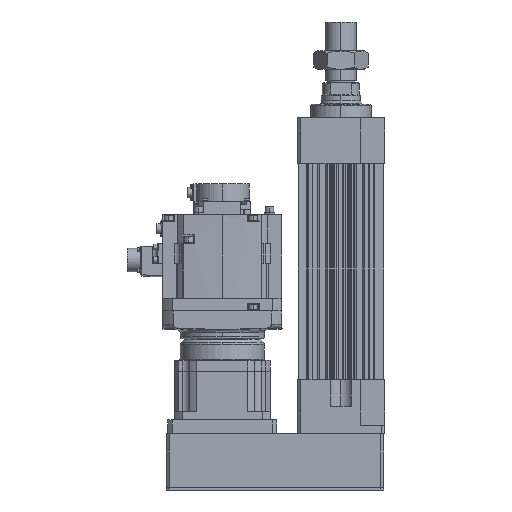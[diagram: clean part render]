
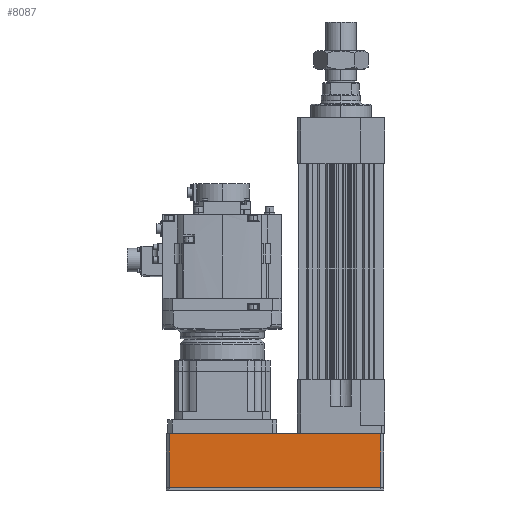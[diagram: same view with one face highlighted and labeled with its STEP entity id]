
A CAD part, left-side view. The second image highlights one B-rep face of the part: STEP entity #8087.
In plain terms, the highlighted planar face has unit normal (-1, 0, 0).
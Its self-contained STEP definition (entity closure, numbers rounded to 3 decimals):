
#4303 = DIRECTION ( 'NONE',  ( 0., -1., 0. ) ) ;
#6866 = EDGE_CURVE ( 'NONE', #21077, #49106, #23429, .T. ) ;
#6948 = PLANE ( 'NONE',  #25066 ) ;
#8087 = ADVANCED_FACE ( 'NONE', ( #43903 ), #6948, .F. ) ;
#11198 = DIRECTION ( 'NONE',  ( 1., 0., 0. ) ) ;
#11955 = EDGE_CURVE ( 'NONE', #49106, #29496, #26333, .T. ) ;
#12803 = CARTESIAN_POINT ( 'NONE',  ( -63.5, 63.5, 0.5 ) ) ;
#13216 = DIRECTION ( 'NONE',  ( 0., 0., 1. ) ) ;
#17422 = CARTESIAN_POINT ( 'NONE',  ( -63.5, 59., 0.5 ) ) ;
#19586 = EDGE_LOOP ( 'NONE', ( #37611, #24304, #23653, #51158 ) ) ;
#20137 = VECTOR ( 'NONE', #13216, 1000. ) ;
#21077 = VERTEX_POINT ( 'NONE', #29760 ) ;
#21704 = EDGE_CURVE ( 'NONE', #29496, #39172, #55018, .T. ) ;
#23429 = LINE ( 'NONE', #38666, #20137 ) ;
#23466 = CARTESIAN_POINT ( 'NONE',  ( -63.5, 63.5, 81. ) ) ;
#23653 = ORIENTED_EDGE ( 'NONE', *, *, #6866, .T. ) ;
#24304 = ORIENTED_EDGE ( 'NONE', *, *, #26019, .T. ) ;
#24655 = CARTESIAN_POINT ( 'NONE',  ( -63.5, 59., 80.5 ) ) ;
#25066 = AXIS2_PLACEMENT_3D ( 'NONE', #23466, #11198, #28088 ) ;
#26019 = EDGE_CURVE ( 'NONE', #39172, #21077, #45071, .T. ) ;
#26333 = LINE ( 'NONE', #24655, #54922 ) ;
#28088 = DIRECTION ( 'NONE',  ( 0., 1., 0. ) ) ;
#29496 = VERTEX_POINT ( 'NONE', #32977 ) ;
#29760 = CARTESIAN_POINT ( 'NONE',  ( -63.5, -254.5, 0.5 ) ) ;
#31549 = DIRECTION ( 'NONE',  ( 0., 0., -1. ) ) ;
#32977 = CARTESIAN_POINT ( 'NONE',  ( -63.5, 59., 80.5 ) ) ;
#33514 = CARTESIAN_POINT ( 'NONE',  ( -63.5, -254.5, 80.5 ) ) ;
#37100 = VECTOR ( 'NONE', #31549, 1000. ) ;
#37611 = ORIENTED_EDGE ( 'NONE', *, *, #21704, .T. ) ;
#38666 = CARTESIAN_POINT ( 'NONE',  ( -63.5, -254.5, 81. ) ) ;
#39172 = VERTEX_POINT ( 'NONE', #17422 ) ;
#43744 = VECTOR ( 'NONE', #4303, 1000. ) ;
#43903 = FACE_OUTER_BOUND ( 'NONE', #19586, .T. ) ;
#45071 = LINE ( 'NONE', #12803, #43744 ) ;
#45270 = DIRECTION ( 'NONE',  ( 0., 1., 0. ) ) ;
#48638 = CARTESIAN_POINT ( 'NONE',  ( -63.5, 59., 81. ) ) ;
#49106 = VERTEX_POINT ( 'NONE', #33514 ) ;
#51158 = ORIENTED_EDGE ( 'NONE', *, *, #11955, .T. ) ;
#54922 = VECTOR ( 'NONE', #45270, 1000. ) ;
#55018 = LINE ( 'NONE', #48638, #37100 ) ;
